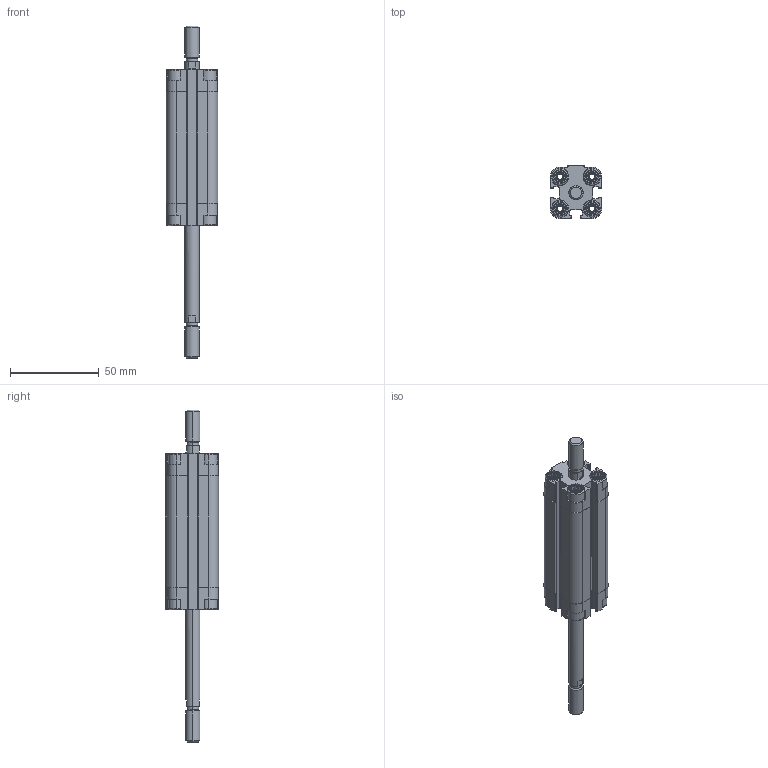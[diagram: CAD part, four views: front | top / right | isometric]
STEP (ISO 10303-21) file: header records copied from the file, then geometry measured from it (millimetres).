
FILE_DESCRIPTION (( 'STEP AP203' ), '1' );
FILE_NAME ('CDVU16-50M-P.STEP', '2020-07-21T15:05:11', ( '' ), ( '' ), 'SwSTEP 2.0', 'SolidWorks 2019', '' );
FILE_SCHEMA (( 'CONFIG_CONTROL_DESIGN' ));
Length unit declared in the file: millimetre
Products named in the file (1): CDVU16-50M-P
Bounding box: 29 x 30 x 187 mm (x, y, z)
Volume: 52436.8 mm3; surface area: 30678.2 mm2
Topology: 2 solids, 2 shells, 566 faces, 1504 edges, 978 vertices
Faces by surface type: plane 338, cylinder 164, cone 48, torus 16
Entity records: 17771 total; most frequent: CARTESIAN_POINT 3621, ORIENTED_EDGE 3000, DIRECTION 2850, EDGE_CURVE 1500, VERTEX_POINT 978, AXIS2_PLACEMENT_3D 975, VECTOR 900, LINE 900
